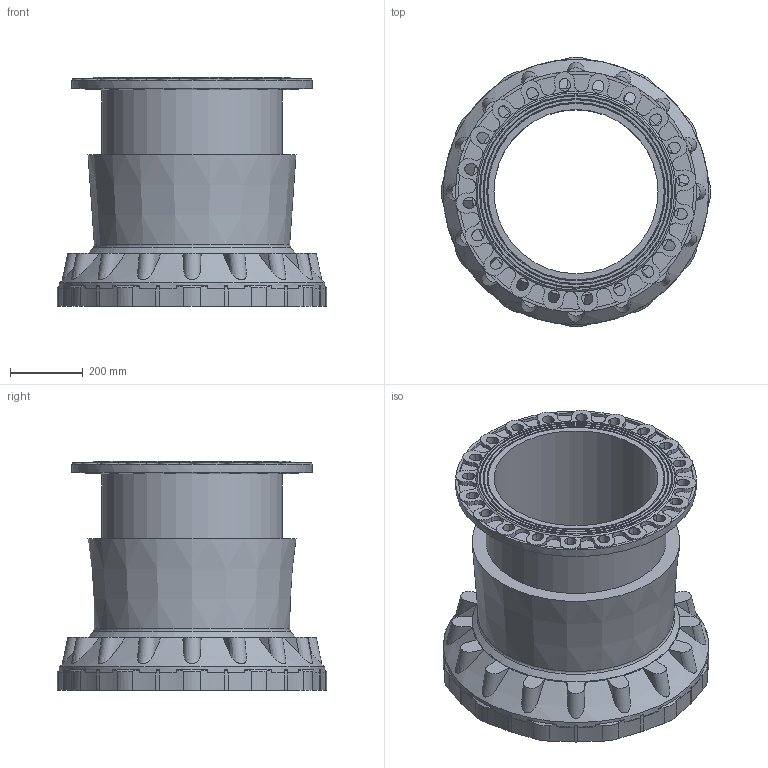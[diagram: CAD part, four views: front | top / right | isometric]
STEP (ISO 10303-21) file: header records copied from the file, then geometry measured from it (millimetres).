
FILE_DESCRIPTION (( 'STEP AP203' ), '1' );
FILE_NAME ('O_633_00_DN450_AA0.step', '2018-07-03T05:48:08', ( 'Windows User' ), ( 'AVK' ), 'SwSTEP 2.0', 'SolidWorks 2012', '' );
FILE_SCHEMA (( 'CONFIG_CONTROL_DESIGN' ));
Length unit declared in the file: millimetre
Products named in the file (1): O_633_00_DN450_AA0
Bounding box: 739 x 739 x 628.68 mm (x, y, z)
Volume: 64422125 mm3; surface area: 2880873.8 mm2
Topology: 1 solids, 1 shells, 441 faces, 1261 edges, 829 vertices
Faces by surface type: cylinder 229, plane 133, cone 59, bspline 16, torus 4
Full cylindrical faces by diameter (mm): 450 x1, 495 x1, 570 x1, 660 x1, 728 x1
Entity records: 19713 total; most frequent: CARTESIAN_POINT 8188, ORIENTED_EDGE 2470, DIRECTION 2390, EDGE_CURVE 1235, AXIS2_PLACEMENT_3D 985, VERTEX_POINT 823, CIRCLE 559, EDGE_LOOP 510
